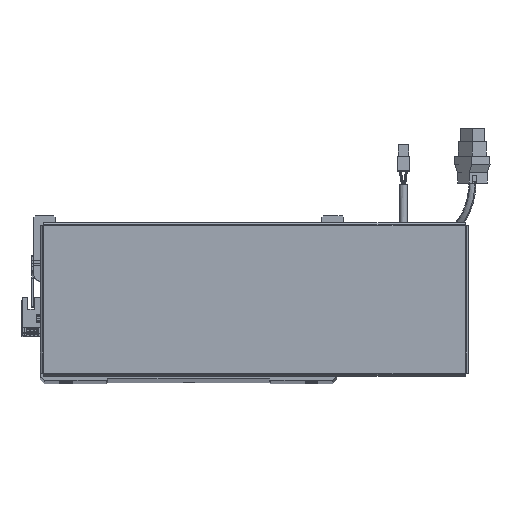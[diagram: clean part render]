
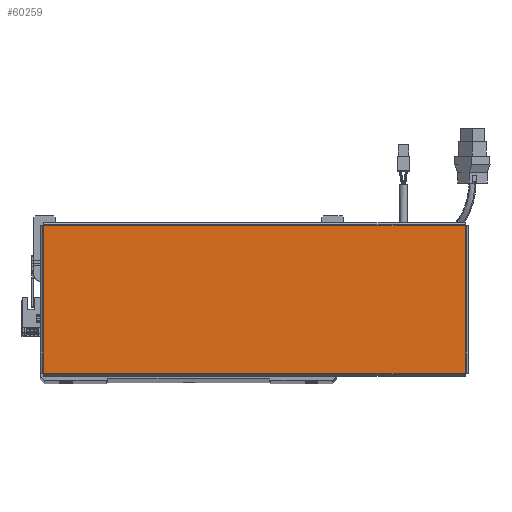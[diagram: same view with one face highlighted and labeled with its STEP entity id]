
A CAD part, top view. The second image highlights one B-rep face of the part: STEP entity #60259.
In plain terms, the highlighted planar face has unit normal (0, 0, 1).
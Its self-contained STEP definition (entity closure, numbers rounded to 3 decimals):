
#3541 = CARTESIAN_POINT ( 'NONE',  ( 156.513, -54.763, 0. ) ) ;
#3854 = DIRECTION ( 'NONE',  ( -1., 0., 0. ) ) ;
#4471 = DIRECTION ( 'NONE',  ( 1., 0., 0. ) ) ;
#7589 = CARTESIAN_POINT ( 'NONE',  ( -156.513, 54.793, 0. ) ) ;
#7800 = AXIS2_PLACEMENT_3D ( 'NONE', #28681, #19038, #30631 ) ;
#9910 = LINE ( 'NONE', #71956, #16093 ) ;
#10535 = EDGE_CURVE ( 'NONE', #55999, #68793, #34209, .T. ) ;
#13299 = DIRECTION ( 'NONE',  ( 0., -1., 0. ) ) ;
#13484 = EDGE_CURVE ( 'NONE', #69564, #52818, #62877, .T. ) ;
#16093 = VECTOR ( 'NONE', #4471, 1000. ) ;
#19038 = DIRECTION ( 'NONE',  ( 0., 0., 1. ) ) ;
#19227 = CARTESIAN_POINT ( 'NONE',  ( -156.513, -54.763, 0. ) ) ;
#23533 = CARTESIAN_POINT ( 'NONE',  ( 156.513, 54.763, 0. ) ) ;
#24518 = EDGE_LOOP ( 'NONE', ( #39002, #35700, #35591, #55816 ) ) ;
#26937 = EDGE_CURVE ( 'NONE', #68793, #69564, #9910, .T. ) ;
#27696 = VECTOR ( 'NONE', #3854, 1000. ) ;
#28527 = FACE_OUTER_BOUND ( 'NONE', #24518, .T. ) ;
#28681 = CARTESIAN_POINT ( 'NONE',  ( 0., 0., 0. ) ) ;
#30631 = DIRECTION ( 'NONE',  ( 1., 0., 0. ) ) ;
#32540 = DIRECTION ( 'NONE',  ( 0., 1., 0. ) ) ;
#33018 = CARTESIAN_POINT ( 'NONE',  ( 156.513, -54.793, 0. ) ) ;
#33842 = VECTOR ( 'NONE', #32540, 1000. ) ;
#34209 = LINE ( 'NONE', #7589, #52650 ) ;
#35591 = ORIENTED_EDGE ( 'NONE', *, *, #70950, .T. ) ;
#35700 = ORIENTED_EDGE ( 'NONE', *, *, #13484, .T. ) ;
#39002 = ORIENTED_EDGE ( 'NONE', *, *, #26937, .T. ) ;
#52650 = VECTOR ( 'NONE', #13299, 1000. ) ;
#52818 = VERTEX_POINT ( 'NONE', #23533 ) ;
#55273 = CARTESIAN_POINT ( 'NONE',  ( -156.513, 54.763, 0. ) ) ;
#55816 = ORIENTED_EDGE ( 'NONE', *, *, #10535, .T. ) ;
#55999 = VERTEX_POINT ( 'NONE', #55273 ) ;
#60259 = ADVANCED_FACE ( 'NONE', ( #28527 ), #68266, .T. ) ;
#61193 = LINE ( 'NONE', #70644, #27696 ) ;
#62877 = LINE ( 'NONE', #33018, #33842 ) ;
#68266 = PLANE ( 'NONE',  #7800 ) ;
#68793 = VERTEX_POINT ( 'NONE', #19227 ) ;
#69564 = VERTEX_POINT ( 'NONE', #3541 ) ;
#70644 = CARTESIAN_POINT ( 'NONE',  ( 156.543, 54.763, 0. ) ) ;
#70950 = EDGE_CURVE ( 'NONE', #52818, #55999, #61193, .T. ) ;
#71956 = CARTESIAN_POINT ( 'NONE',  ( -156.543, -54.763, 0. ) ) ;
